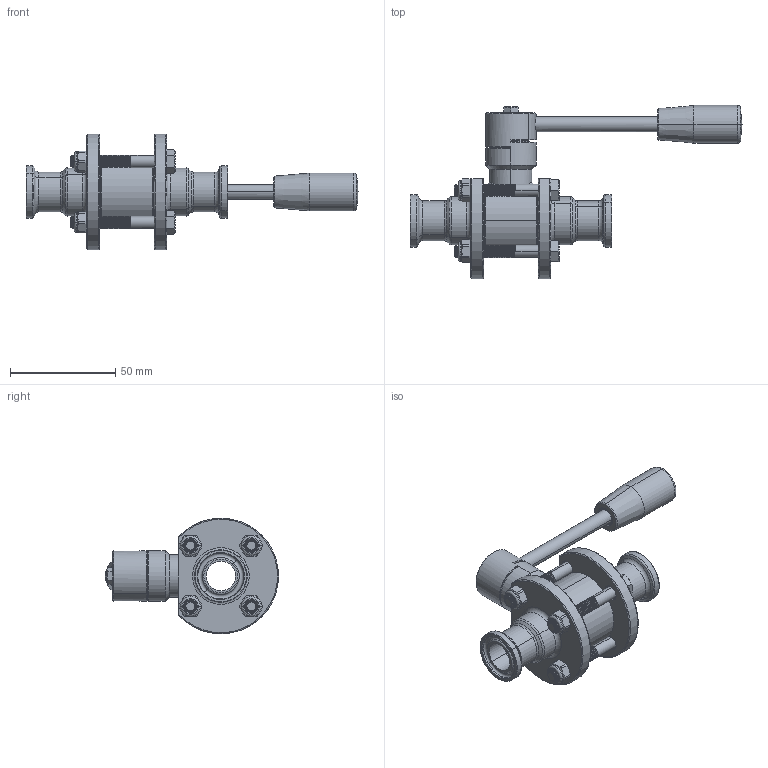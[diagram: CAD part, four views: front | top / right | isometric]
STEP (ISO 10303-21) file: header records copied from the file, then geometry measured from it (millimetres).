
FILE_DESCRIPTION((''),'2;1');
FILE_NAME('51013061710_SW0001','2025-10-31T14:06:13',('tecnico2'),('CDM Tecnoconsulting'),'CREO PARAMETRIC BY PTC INC, 2024063','CREO PARAMETRIC BY PTC INC, 2024063','');
FILE_SCHEMA(('AUTOMOTIVE_DESIGN { 1 0 10303 214 1 1 1 1 }'));
Products named in the file (1): 51013061710_SW0001
Bounding box: 158 x 82.45 x 54.97 mm (x, y, z)
Volume: 82658 mm3; surface area: 44186.6 mm2
Topology: 1 solids, 1 shells, 1439 faces, 3845 edges, 2437 vertices
Faces by surface type: cylinder 481, plane 384, cone 186, bspline 170, extrusion 150, torus 62, sphere 6
Entity records: 154361 total; most frequent: CARTESIAN_POINT 107311, ORIENTED_EDGE 7654, DIRECTION 5548, PRESENTATION_STYLE_ASSIGNMENT 4231, STYLED_ITEM 3922, CURVE_STYLE 3921, EDGE_CURVE 3827, VERTEX_POINT 2437
